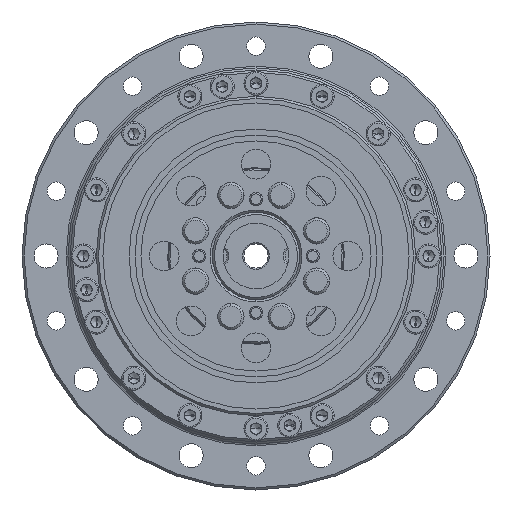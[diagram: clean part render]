
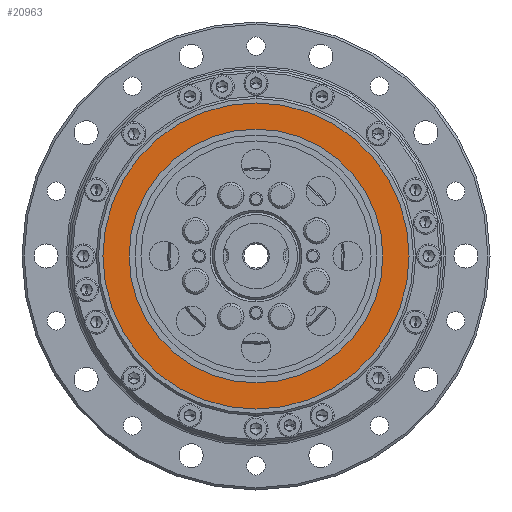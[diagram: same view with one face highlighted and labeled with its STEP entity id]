
A CAD part, left-side view. The second image highlights one B-rep face of the part: STEP entity #20963.
In plain terms, the highlighted planar face has unit normal (-1, 0, 0).
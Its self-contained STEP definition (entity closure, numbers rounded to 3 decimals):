
#2257 = CIRCLE ( 'NONE', #4859, 29. ) ;
#4240 = CARTESIAN_POINT ( 'NONE',  ( -16.314, 0., 29. ) ) ;
#4859 = AXIS2_PLACEMENT_3D ( 'NONE', #30826, #6459, #34943 ) ;
#6459 = DIRECTION ( 'NONE',  ( -1., 0., 0. ) ) ;
#7221 = ORIENTED_EDGE ( 'NONE', *, *, #47481, .F. ) ;
#9382 = ORIENTED_EDGE ( 'NONE', *, *, #22376, .F. ) ;
#9826 = EDGE_LOOP ( 'NONE', ( #43918, #9382 ) ) ;
#9951 = CARTESIAN_POINT ( 'NONE',  ( -16.314, 0., 0. ) ) ;
#11095 = AXIS2_PLACEMENT_3D ( 'NONE', #21929, #50384, #25989 ) ;
#12509 = CARTESIAN_POINT ( 'NONE',  ( -16.314, -35.42, 35.42 ) ) ;
#14025 = DIRECTION ( 'NONE',  ( 0., 0., 1. ) ) ;
#15192 = VERTEX_POINT ( 'NONE', #20243 ) ;
#15814 = CIRCLE ( 'NONE', #36553, 35. ) ;
#15907 = CIRCLE ( 'NONE', #36166, 35. ) ;
#16626 = DIRECTION ( 'NONE',  ( 1., 0., 0. ) ) ;
#16972 = AXIS2_PLACEMENT_3D ( 'NONE', #12509, #16626, #45046 ) ;
#19124 = VERTEX_POINT ( 'NONE', #4240 ) ;
#20243 = CARTESIAN_POINT ( 'NONE',  ( -16.314, 0., -35. ) ) ;
#20963 = ADVANCED_FACE ( 'NONE', ( #30377, #52033 ), #36894, .F. ) ;
#21501 = CIRCLE ( 'NONE', #11095, 29. ) ;
#21929 = CARTESIAN_POINT ( 'NONE',  ( -16.314, 0., 0. ) ) ;
#22376 = EDGE_CURVE ( 'NONE', #36060, #19124, #2257, .T. ) ;
#23576 = DIRECTION ( 'NONE',  ( 1., 0., 0. ) ) ;
#25989 = DIRECTION ( 'NONE',  ( 0., 0., 1. ) ) ;
#30377 = FACE_BOUND ( 'NONE', #9826, .T. ) ;
#30826 = CARTESIAN_POINT ( 'NONE',  ( -16.314, 0., 0. ) ) ;
#33012 = EDGE_CURVE ( 'NONE', #19124, #36060, #21501, .T. ) ;
#34943 = DIRECTION ( 'NONE',  ( 0., 0., 1. ) ) ;
#36060 = VERTEX_POINT ( 'NONE', #39981 ) ;
#36166 = AXIS2_PLACEMENT_3D ( 'NONE', #47957, #23576, #52052 ) ;
#36553 = AXIS2_PLACEMENT_3D ( 'NONE', #9951, #38424, #14025 ) ;
#36894 = PLANE ( 'NONE',  #16972 ) ;
#38424 = DIRECTION ( 'NONE',  ( 1., 0., 0. ) ) ;
#39981 = CARTESIAN_POINT ( 'NONE',  ( -16.314, 0., -29. ) ) ;
#43918 = ORIENTED_EDGE ( 'NONE', *, *, #33012, .F. ) ;
#44414 = EDGE_LOOP ( 'NONE', ( #7221, #51952 ) ) ;
#45046 = DIRECTION ( 'NONE',  ( 0., 0., -1. ) ) ;
#46301 = EDGE_CURVE ( 'NONE', #15192, #47515, #15907, .T. ) ;
#46400 = CARTESIAN_POINT ( 'NONE',  ( -16.314, 0., 35. ) ) ;
#47481 = EDGE_CURVE ( 'NONE', #47515, #15192, #15814, .T. ) ;
#47515 = VERTEX_POINT ( 'NONE', #46400 ) ;
#47957 = CARTESIAN_POINT ( 'NONE',  ( -16.314, 0., 0. ) ) ;
#50384 = DIRECTION ( 'NONE',  ( -1., 0., 0. ) ) ;
#51952 = ORIENTED_EDGE ( 'NONE', *, *, #46301, .F. ) ;
#52033 = FACE_OUTER_BOUND ( 'NONE', #44414, .T. ) ;
#52052 = DIRECTION ( 'NONE',  ( 0., 0., 1. ) ) ;
